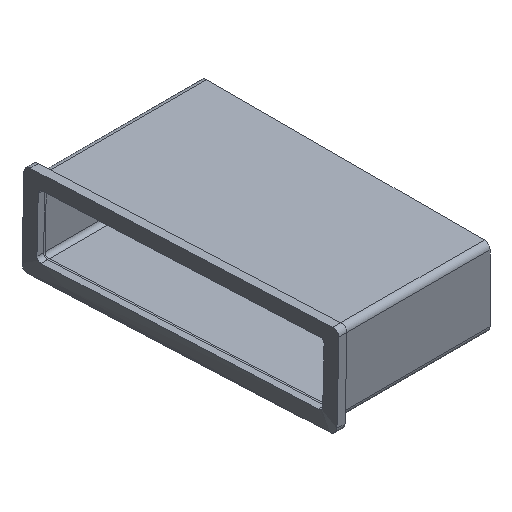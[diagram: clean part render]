
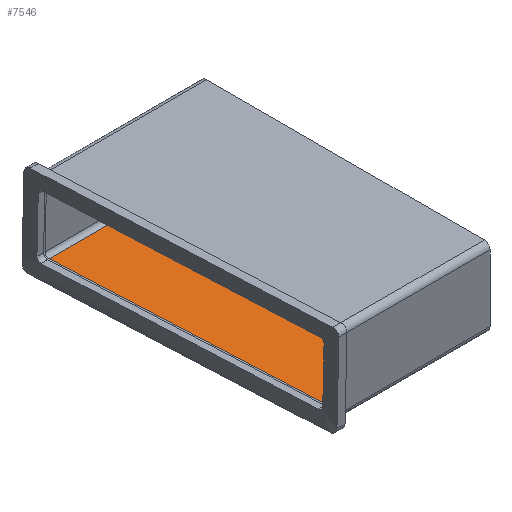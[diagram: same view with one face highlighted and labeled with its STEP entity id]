
A CAD part, isometric view. The second image highlights one B-rep face of the part: STEP entity #7546.
In plain terms, the highlighted planar face has unit normal (0, 0, 1).
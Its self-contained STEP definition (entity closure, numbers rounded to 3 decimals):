
#4891 = PLANE('',#4892);
#4892 = AXIS2_PLACEMENT_3D('',#4893,#4894,#4895);
#4893 = CARTESIAN_POINT('',(-5.,-102.6,8.65));
#4894 = DIRECTION('',(0.,0.,1.));
#4895 = DIRECTION('',(0.,1.,0.));
#5934 = VERTEX_POINT('',#5935);
#5935 = CARTESIAN_POINT('',(2.713,-56.1,8.65));
#6016 = CYLINDRICAL_SURFACE('',#6017,0.7);
#6017 = AXIS2_PLACEMENT_3D('',#6018,#6019,#6020);
#6018 = CARTESIAN_POINT('',(-5.,-56.1,9.35));
#6019 = DIRECTION('',(1.,0.,0.));
#6020 = DIRECTION('',(0.,0.,-1.));
#6652 = VERTEX_POINT('',#6653);
#6653 = CARTESIAN_POINT('',(4.864,-101.9,8.65));
#6712 = CYLINDRICAL_SURFACE('',#6713,0.7);
#6713 = AXIS2_PLACEMENT_3D('',#6714,#6715,#6716);
#6714 = CARTESIAN_POINT('',(-5.,-101.9,9.35));
#6715 = DIRECTION('',(1.,0.,0.));
#6716 = DIRECTION('',(0.,0.,-1.));
#6750 = EDGE_CURVE('',#5934,#6652,#6751,.T.);
#6751 = SURFACE_CURVE('',#6752,(#6761,#6773),.PCURVE_S1.);
#6752 = B_SPLINE_CURVE_WITH_KNOTS('',4,(#6753,#6754,#6755,#6756,#6757,
    #6758,#6759,#6760),.UNSPECIFIED.,.F.,.F.,(5,3,5),(0.,0.5,
    1.),.UNSPECIFIED.);
#6753 = CARTESIAN_POINT('',(2.713,-56.1,8.65));
#6754 = CARTESIAN_POINT('',(2.904,-61.826,8.65));
#6755 = CARTESIAN_POINT('',(3.12,-67.551,8.65));
#6756 = CARTESIAN_POINT('',(3.363,-73.276,8.65));
#6757 = CARTESIAN_POINT('',(3.901,-84.726,8.65));
#6758 = CARTESIAN_POINT('',(4.196,-90.451,8.65));
#6759 = CARTESIAN_POINT('',(4.517,-96.176,8.65));
#6760 = CARTESIAN_POINT('',(4.864,-101.9,8.65));
#6761 = PCURVE('',#4891,#6762);
#6762 = DEFINITIONAL_REPRESENTATION('',(#6763),#6772);
#6763 = B_SPLINE_CURVE_WITH_KNOTS('',4,(#6764,#6765,#6766,#6767,#6768,
    #6769,#6770,#6771),.UNSPECIFIED.,.F.,.F.,(5,3,5),(0.,0.5,
    1.),.UNSPECIFIED.);
#6764 = CARTESIAN_POINT('',(46.5,-7.713));
#6765 = CARTESIAN_POINT('',(40.774,-7.904));
#6766 = CARTESIAN_POINT('',(35.049,-8.12));
#6767 = CARTESIAN_POINT('',(29.324,-8.363));
#6768 = CARTESIAN_POINT('',(17.874,-8.901));
#6769 = CARTESIAN_POINT('',(12.149,-9.196));
#6770 = CARTESIAN_POINT('',(6.424,-9.517));
#6771 = CARTESIAN_POINT('',(0.7,-9.864));
#6772 = ( GEOMETRIC_REPRESENTATION_CONTEXT(2) 
PARAMETRIC_REPRESENTATION_CONTEXT() REPRESENTATION_CONTEXT('2D SPACE',''
  ) );
#6773 = PCURVE('',#6774,#6779);
#6774 = PLANE('',#6775);
#6775 = AXIS2_PLACEMENT_3D('',#6776,#6777,#6778);
#6776 = CARTESIAN_POINT('',(-5.,-102.6,8.65));
#6777 = DIRECTION('',(0.,0.,1.));
#6778 = DIRECTION('',(0.,1.,0.));
#6779 = DEFINITIONAL_REPRESENTATION('',(#6780),#6789);
#6780 = B_SPLINE_CURVE_WITH_KNOTS('',4,(#6781,#6782,#6783,#6784,#6785,
    #6786,#6787,#6788),.UNSPECIFIED.,.F.,.F.,(5,3,5),(0.,0.5,
    1.),.UNSPECIFIED.);
#6781 = CARTESIAN_POINT('',(46.5,-7.713));
#6782 = CARTESIAN_POINT('',(40.774,-7.904));
#6783 = CARTESIAN_POINT('',(35.049,-8.12));
#6784 = CARTESIAN_POINT('',(29.324,-8.363));
#6785 = CARTESIAN_POINT('',(17.874,-8.901));
#6786 = CARTESIAN_POINT('',(12.149,-9.196));
#6787 = CARTESIAN_POINT('',(6.424,-9.517));
#6788 = CARTESIAN_POINT('',(0.7,-9.864));
#6789 = ( GEOMETRIC_REPRESENTATION_CONTEXT(2) 
PARAMETRIC_REPRESENTATION_CONTEXT() REPRESENTATION_CONTEXT('2D SPACE',''
  ) );
#6856 = PLANE('',#6857);
#6857 = AXIS2_PLACEMENT_3D('',#6858,#6859,#6860);
#6858 = CARTESIAN_POINT('',(31.043,-106.,5.25));
#6859 = DIRECTION('',(1.,0.,-0.));
#6860 = DIRECTION('',(0.,0.,1.));
#7187 = EDGE_CURVE('',#5934,#7188,#7190,.T.);
#7188 = VERTEX_POINT('',#7189);
#7189 = CARTESIAN_POINT('',(31.043,-56.1,8.65));
#7190 = SURFACE_CURVE('',#7191,(#7195,#7202),.PCURVE_S1.);
#7191 = LINE('',#7192,#7193);
#7192 = CARTESIAN_POINT('',(-5.,-56.1,8.65));
#7193 = VECTOR('',#7194,1.);
#7194 = DIRECTION('',(1.,0.,0.));
#7195 = PCURVE('',#6016,#7196);
#7196 = DEFINITIONAL_REPRESENTATION('',(#7197),#7201);
#7197 = LINE('',#7198,#7199);
#7198 = CARTESIAN_POINT('',(0.,0.));
#7199 = VECTOR('',#7200,1.);
#7200 = DIRECTION('',(0.,1.));
#7201 = ( GEOMETRIC_REPRESENTATION_CONTEXT(2) 
PARAMETRIC_REPRESENTATION_CONTEXT() REPRESENTATION_CONTEXT('2D SPACE',''
  ) );
#7202 = PCURVE('',#6774,#7203);
#7203 = DEFINITIONAL_REPRESENTATION('',(#7204),#7208);
#7204 = LINE('',#7205,#7206);
#7205 = CARTESIAN_POINT('',(46.5,0.));
#7206 = VECTOR('',#7207,1.);
#7207 = DIRECTION('',(0.,-1.));
#7208 = ( GEOMETRIC_REPRESENTATION_CONTEXT(2) 
PARAMETRIC_REPRESENTATION_CONTEXT() REPRESENTATION_CONTEXT('2D SPACE',''
  ) );
#7500 = EDGE_CURVE('',#6652,#7501,#7503,.T.);
#7501 = VERTEX_POINT('',#7502);
#7502 = CARTESIAN_POINT('',(31.043,-101.9,8.65));
#7503 = SURFACE_CURVE('',#7504,(#7508,#7515),.PCURVE_S1.);
#7504 = LINE('',#7505,#7506);
#7505 = CARTESIAN_POINT('',(-5.,-101.9,8.65));
#7506 = VECTOR('',#7507,1.);
#7507 = DIRECTION('',(1.,0.,0.));
#7508 = PCURVE('',#6712,#7509);
#7509 = DEFINITIONAL_REPRESENTATION('',(#7510),#7514);
#7510 = LINE('',#7511,#7512);
#7511 = CARTESIAN_POINT('',(-0.,0.));
#7512 = VECTOR('',#7513,1.);
#7513 = DIRECTION('',(-0.,1.));
#7514 = ( GEOMETRIC_REPRESENTATION_CONTEXT(2) 
PARAMETRIC_REPRESENTATION_CONTEXT() REPRESENTATION_CONTEXT('2D SPACE',''
  ) );
#7515 = PCURVE('',#6774,#7516);
#7516 = DEFINITIONAL_REPRESENTATION('',(#7517),#7521);
#7517 = LINE('',#7518,#7519);
#7518 = CARTESIAN_POINT('',(0.7,0.));
#7519 = VECTOR('',#7520,1.);
#7520 = DIRECTION('',(0.,-1.));
#7521 = ( GEOMETRIC_REPRESENTATION_CONTEXT(2) 
PARAMETRIC_REPRESENTATION_CONTEXT() REPRESENTATION_CONTEXT('2D SPACE',''
  ) );
#7546 = ADVANCED_FACE('',(#7547),#6774,.T.);
#7547 = FACE_BOUND('',#7548,.T.);
#7548 = EDGE_LOOP('',(#7549,#7550,#7551,#7552));
#7549 = ORIENTED_EDGE('',*,*,#7187,.F.);
#7550 = ORIENTED_EDGE('',*,*,#6750,.T.);
#7551 = ORIENTED_EDGE('',*,*,#7500,.T.);
#7552 = ORIENTED_EDGE('',*,*,#7553,.T.);
#7553 = EDGE_CURVE('',#7501,#7188,#7554,.T.);
#7554 = SURFACE_CURVE('',#7555,(#7559,#7565),.PCURVE_S1.);
#7555 = LINE('',#7556,#7557);
#7556 = CARTESIAN_POINT('',(31.043,-104.3,8.65));
#7557 = VECTOR('',#7558,1.);
#7558 = DIRECTION('',(-0.,1.,0.));
#7559 = PCURVE('',#6774,#7560);
#7560 = DEFINITIONAL_REPRESENTATION('',(#7561),#7564);
#7561 = B_SPLINE_CURVE_WITH_KNOTS('',1,(#7562,#7563),.UNSPECIFIED.,.F.,
  .F.,(2,2),(2.4,48.2),.PIECEWISE_BEZIER_KNOTS.);
#7562 = CARTESIAN_POINT('',(0.7,-36.043));
#7563 = CARTESIAN_POINT('',(46.5,-36.043));
#7564 = ( GEOMETRIC_REPRESENTATION_CONTEXT(2) 
PARAMETRIC_REPRESENTATION_CONTEXT() REPRESENTATION_CONTEXT('2D SPACE',''
  ) );
#7565 = PCURVE('',#6856,#7566);
#7566 = DEFINITIONAL_REPRESENTATION('',(#7567),#7570);
#7567 = B_SPLINE_CURVE_WITH_KNOTS('',1,(#7568,#7569),.UNSPECIFIED.,.F.,
  .F.,(2,2),(2.4,48.2),.PIECEWISE_BEZIER_KNOTS.);
#7568 = CARTESIAN_POINT('',(3.4,-4.1));
#7569 = CARTESIAN_POINT('',(3.4,-49.9));
#7570 = ( GEOMETRIC_REPRESENTATION_CONTEXT(2) 
PARAMETRIC_REPRESENTATION_CONTEXT() REPRESENTATION_CONTEXT('2D SPACE',''
  ) );
